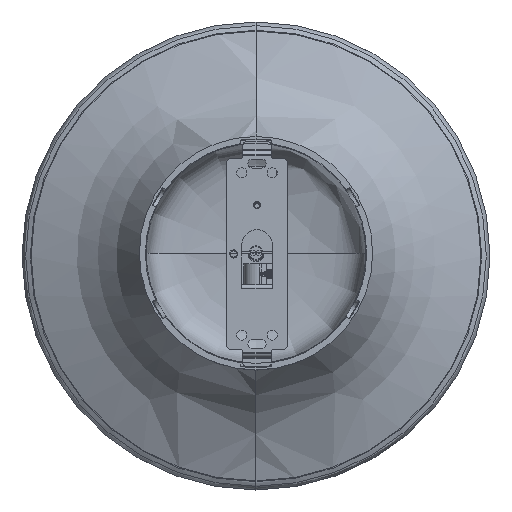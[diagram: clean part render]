
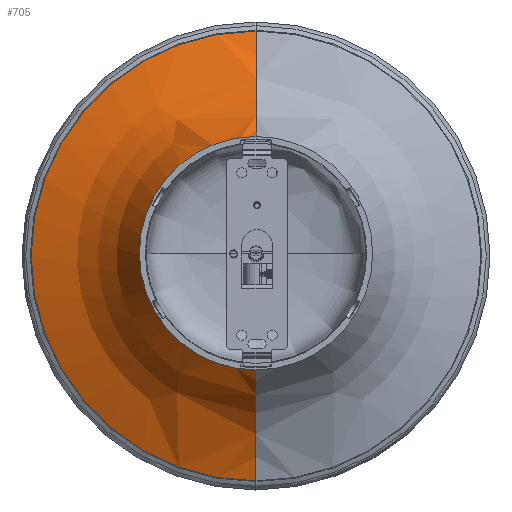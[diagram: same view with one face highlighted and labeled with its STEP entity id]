
A CAD part, top view. The second image highlights one B-rep face of the part: STEP entity #705.
In plain terms, the highlighted free-form (B-spline) face has degree [2, 2] with [9, 9] control points.
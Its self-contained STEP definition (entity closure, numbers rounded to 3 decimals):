
#705=ADVANCED_FACE('',(#1382),#11106,.T.);
#1382=FACE_OUTER_BOUND('',#2111,.T.);
#2111=EDGE_LOOP('',(#5213,#5214,#5215,#5216));
#5213=ORIENTED_EDGE('',*,*,#7211,.F.);
#5214=ORIENTED_EDGE('',*,*,#7215,.T.);
#5215=ORIENTED_EDGE('',*,*,#7214,.F.);
#5216=ORIENTED_EDGE('',*,*,#7213,.F.);
#7211=EDGE_CURVE('',#10667,#10666,#7829,.T.);
#7213=EDGE_CURVE('',#10666,#10668,#7831,.T.);
#7214=EDGE_CURVE('',#10668,#10669,#7832,.T.);
#7215=EDGE_CURVE('',#10667,#10669,#7833,.T.);
#7829=TRIMMED_CURVE($,#8316,(#53224),(#53225),.T.,.CARTESIAN.);
#7831=TRIMMED_CURVE($,#8318,(#53230),(#53231),.T.,.CARTESIAN.);
#7832=TRIMMED_CURVE($,#8319,(#53233),(#53234),.T.,.CARTESIAN.);
#7833=TRIMMED_CURVE($,#8320,(#53236),(#53237),.T.,.CARTESIAN.);
#8316=CIRCLE('',#12313,111.177);
#8318=CIRCLE('',#12315,74.7);
#8319=CIRCLE('',#12316,56.342);
#8320=CIRCLE('',#12317,74.7);
#10666=VERTEX_POINT('',#53099);
#10667=VERTEX_POINT('',#53100);
#10668=VERTEX_POINT('',#53101);
#10669=VERTEX_POINT('',#53102);
#11106=(
BOUNDED_SURFACE()
B_SPLINE_SURFACE(2,2,((#52717,#52718,#52719,#52720,#52721,#52722,#52723,
#52724,#52725),(#52726,#52727,#52728,#52729,#52730,#52731,#52732,#52733,
#52734),(#52735,#52736,#52737,#52738,#52739,#52740,#52741,#52742,#52743),
(#52744,#52745,#52746,#52747,#52748,#52749,#52750,#52751,#52752),(#52753,
#52754,#52755,#52756,#52757,#52758,#52759,#52760,#52761),(#52762,#52763,
#52764,#52765,#52766,#52767,#52768,#52769,#52770),(#52771,#52772,#52773,
#52774,#52775,#52776,#52777,#52778,#52779),(#52780,#52781,#52782,#52783,
#52784,#52785,#52786,#52787,#52788),(#52789,#52790,#52791,#52792,#52793,
#52794,#52795,#52796,#52797)),.UNSPECIFIED.,.T.,.F.,.F.)
B_SPLINE_SURFACE_WITH_KNOTS((3,2,2,2,3),(3,2,2,2,3),(0.,117.338,
234.677,352.015,469.354),(0.,198.919,
397.838,596.757,795.676),.UNSPECIFIED.)
GEOMETRIC_REPRESENTATION_ITEM()
RATIONAL_B_SPLINE_SURFACE(((1.,0.707,1.,0.707,1.,
0.707,1.,0.707,1.),(0.707,0.5,0.707,
0.5,0.707,0.5,0.707,0.5,0.707),(1.,
0.707,1.,0.707,1.,0.707,1.,0.707,
1.),(0.707,0.5,0.707,0.5,0.707,0.5,
0.707,0.5,0.707),(1.,0.707,1.,0.707,
1.,0.707,1.,0.707,1.),(0.707,0.5,0.707,
0.5,0.707,0.5,0.707,0.5,0.707),(1.,
0.707,1.,0.707,1.,0.707,1.,0.707,
1.),(0.707,0.5,0.707,0.5,0.707,0.5,
0.707,0.5,0.707),(1.,0.707,1.,0.707,
1.,0.707,1.,0.707,1.)))
REPRESENTATION_ITEM('')
SURFACE()
);
#12313=AXIS2_PLACEMENT_3D($,#53223,#13602,#13603);
#12315=AXIS2_PLACEMENT_3D($,#53229,#13606,#13607);
#12316=AXIS2_PLACEMENT_3D($,#53232,#13608,#13609);
#12317=AXIS2_PLACEMENT_3D($,#53235,#13610,#13611);
#13602=DIRECTION('',(0.,0.,-1.));
#13603=DIRECTION('',(0.,-1.,0.));
#13606=DIRECTION('',(-1.,0.,0.));
#13607=DIRECTION('',(0.,-0.207,-0.978));
#13608=DIRECTION('',(0.,0.,1.));
#13609=DIRECTION('',(0.,1.,0.));
#13610=DIRECTION('',(1.,0.,0.));
#13611=DIRECTION('',(0.,0.207,-0.978));
#52717=CARTESIAN_POINT('',(0.,-201.336,-295.249));
#52718=CARTESIAN_POINT('',(-201.336,-201.336,-295.249));
#52719=CARTESIAN_POINT('',(-201.336,0.,-295.249));
#52720=CARTESIAN_POINT('',(-201.336,201.336,-295.249));
#52721=CARTESIAN_POINT('',(0.,201.336,-295.249));
#52722=CARTESIAN_POINT('',(201.336,201.336,-295.249));
#52723=CARTESIAN_POINT('',(201.336,0.,-295.249));
#52724=CARTESIAN_POINT('',(201.336,-201.336,-295.249));
#52725=CARTESIAN_POINT('',(0.,-201.336,-295.249));
#52726=CARTESIAN_POINT('',(0.,-201.336,-369.949));
#52727=CARTESIAN_POINT('',(-201.336,-201.336,-369.949));
#52728=CARTESIAN_POINT('',(-201.336,0.,-369.949));
#52729=CARTESIAN_POINT('',(-201.336,201.336,-369.949));
#52730=CARTESIAN_POINT('',(0.,201.336,-369.949));
#52731=CARTESIAN_POINT('',(201.336,201.336,-369.949));
#52732=CARTESIAN_POINT('',(201.336,0.,-369.949));
#52733=CARTESIAN_POINT('',(201.336,-201.336,-369.949));
#52734=CARTESIAN_POINT('',(0.,-201.336,-369.949));
#52735=CARTESIAN_POINT('',(0.,-126.636,-369.949));
#52736=CARTESIAN_POINT('',(-126.636,-126.636,-369.949));
#52737=CARTESIAN_POINT('',(-126.636,0.,-369.949));
#52738=CARTESIAN_POINT('',(-126.636,126.636,-369.949));
#52739=CARTESIAN_POINT('',(0.,126.636,-369.949));
#52740=CARTESIAN_POINT('',(126.636,126.636,-369.949));
#52741=CARTESIAN_POINT('',(126.636,0.,-369.949));
#52742=CARTESIAN_POINT('',(126.636,-126.636,-369.949));
#52743=CARTESIAN_POINT('',(0.,-126.636,-369.949));
#52744=CARTESIAN_POINT('',(0.,-51.936,-369.949));
#52745=CARTESIAN_POINT('',(-51.936,-51.936,-369.949));
#52746=CARTESIAN_POINT('',(-51.936,0.,-369.949));
#52747=CARTESIAN_POINT('',(-51.936,51.936,-369.949));
#52748=CARTESIAN_POINT('',(0.,51.936,-369.949));
#52749=CARTESIAN_POINT('',(51.936,51.936,-369.949));
#52750=CARTESIAN_POINT('',(51.936,0.,-369.949));
#52751=CARTESIAN_POINT('',(51.936,-51.936,-369.949));
#52752=CARTESIAN_POINT('',(0.,-51.936,-369.949));
#52753=CARTESIAN_POINT('',(0.,-51.936,-295.249));
#52754=CARTESIAN_POINT('',(-51.936,-51.936,-295.249));
#52755=CARTESIAN_POINT('',(-51.936,0.,-295.249));
#52756=CARTESIAN_POINT('',(-51.936,51.936,-295.249));
#52757=CARTESIAN_POINT('',(0.,51.936,-295.249));
#52758=CARTESIAN_POINT('',(51.936,51.936,-295.249));
#52759=CARTESIAN_POINT('',(51.936,0.,-295.249));
#52760=CARTESIAN_POINT('',(51.936,-51.936,-295.249));
#52761=CARTESIAN_POINT('',(0.,-51.936,-295.249));
#52762=CARTESIAN_POINT('',(0.,-51.936,-220.549));
#52763=CARTESIAN_POINT('',(-51.936,-51.936,-220.549));
#52764=CARTESIAN_POINT('',(-51.936,0.,-220.549));
#52765=CARTESIAN_POINT('',(-51.936,51.936,-220.549));
#52766=CARTESIAN_POINT('',(0.,51.936,-220.549));
#52767=CARTESIAN_POINT('',(51.936,51.936,-220.549));
#52768=CARTESIAN_POINT('',(51.936,0.,-220.549));
#52769=CARTESIAN_POINT('',(51.936,-51.936,-220.549));
#52770=CARTESIAN_POINT('',(0.,-51.936,-220.549));
#52771=CARTESIAN_POINT('',(0.,-126.636,-220.549));
#52772=CARTESIAN_POINT('',(-126.636,-126.636,-220.549));
#52773=CARTESIAN_POINT('',(-126.636,0.,-220.549));
#52774=CARTESIAN_POINT('',(-126.636,126.636,-220.549));
#52775=CARTESIAN_POINT('',(0.,126.636,-220.549));
#52776=CARTESIAN_POINT('',(126.636,126.636,-220.549));
#52777=CARTESIAN_POINT('',(126.636,0.,-220.549));
#52778=CARTESIAN_POINT('',(126.636,-126.636,-220.549));
#52779=CARTESIAN_POINT('',(0.,-126.636,-220.549));
#52780=CARTESIAN_POINT('',(0.,-201.336,-220.549));
#52781=CARTESIAN_POINT('',(-201.336,-201.336,-220.549));
#52782=CARTESIAN_POINT('',(-201.336,0.,-220.549));
#52783=CARTESIAN_POINT('',(-201.336,201.336,-220.549));
#52784=CARTESIAN_POINT('',(0.,201.336,-220.549));
#52785=CARTESIAN_POINT('',(201.336,201.336,-220.549));
#52786=CARTESIAN_POINT('',(201.336,0.,-220.549));
#52787=CARTESIAN_POINT('',(201.336,-201.336,-220.549));
#52788=CARTESIAN_POINT('',(0.,-201.336,-220.549));
#52789=CARTESIAN_POINT('',(0.,-201.336,-295.249));
#52790=CARTESIAN_POINT('',(-201.336,-201.336,-295.249));
#52791=CARTESIAN_POINT('',(-201.336,0.,-295.249));
#52792=CARTESIAN_POINT('',(-201.336,201.336,-295.249));
#52793=CARTESIAN_POINT('',(0.,201.336,-295.249));
#52794=CARTESIAN_POINT('',(201.336,201.336,-295.249));
#52795=CARTESIAN_POINT('',(201.336,0.,-295.249));
#52796=CARTESIAN_POINT('',(201.336,-201.336,-295.249));
#52797=CARTESIAN_POINT('',(0.,-201.336,-295.249));
#53099=CARTESIAN_POINT('',(0.,111.177,-368.332));
#53100=CARTESIAN_POINT('',(0.,-111.177,-368.332));
#53101=CARTESIAN_POINT('',(0.,56.342,-320.526));
#53102=CARTESIAN_POINT('',(0.,-56.342,-320.526));
#53223=CARTESIAN_POINT('',(0.,0.,-368.332));
#53224=CARTESIAN_POINT('',(0.,-111.177,-368.332));
#53225=CARTESIAN_POINT('',(0.,111.177,-368.332));
#53229=CARTESIAN_POINT('',(0.,126.636,-295.249));
#53230=CARTESIAN_POINT('',(0.,111.177,-368.332));
#53231=CARTESIAN_POINT('',(0.,56.342,-320.526));
#53232=CARTESIAN_POINT('',(0.,0.,-320.526));
#53233=CARTESIAN_POINT('',(0.,56.342,-320.526));
#53234=CARTESIAN_POINT('',(0.,-56.342,-320.526));
#53235=CARTESIAN_POINT('',(0.,-126.636,-295.249));
#53236=CARTESIAN_POINT('',(0.,-111.177,-368.332));
#53237=CARTESIAN_POINT('',(0.,-56.342,-320.526));
